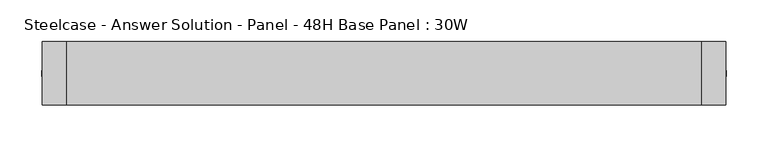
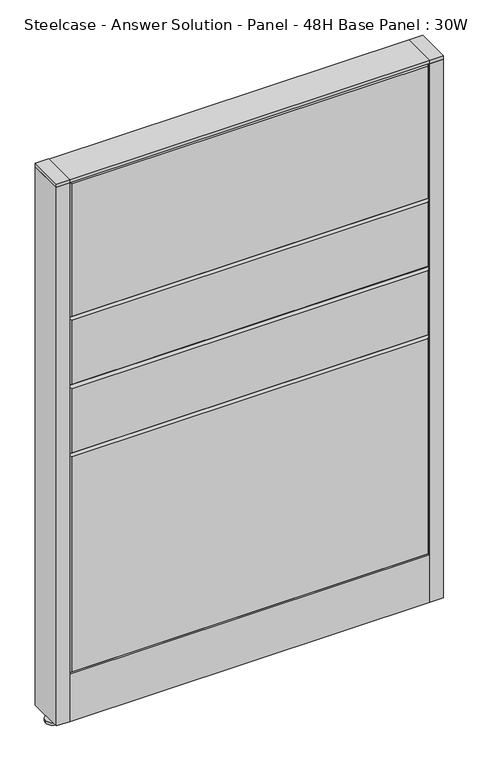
"""IFC4 building model written with IfcOpenShell, lengths in millimetres: furniture geometry, Steelcase - Answer Solution - Panel - 48H Base Panel : 30W."""

from ifc_helpers import new_model, si_unit, point, frame, frame_2d, origin, place, context, project, spatial, polyline, circle_curve, trimmed, segment, composite_curve, outline, extrude, faceted_brep, source, transform, mapped, element, save


def steelcase_answer_solution_panel_48h_base_panel_30w_d3ee1bee(model_context):
    return source(origin(), model_context, "Body", "SolidModel", [
        extrude(outline(composite_curve([segment(trimmed(circle_curve(frame_2d((395.224, 0.0320214)), 5.08), [point((400.304, 0.0320214))], [point((390.144, 0.0320214))], False, "CARTESIAN"), True, "CONTINUOUS"), segment(trimmed(circle_curve(frame_2d((395.224, 0.0320214)), 5.08), [point((390.144, 0.0320214))], [point((400.304, 0.0320214))], False, "CARTESIAN"), True, "CONTINUOUS")], self_intersect=False)), frame((0.0, 0.0, 5.0799671), z_axis=(0.0, 0.0, 1.0), x_axis=(1.0, 0.0, 0.0)), (0.0, 0.0, 1.0), 10.414),
        extrude(outline(composite_curve([segment(trimmed(circle_curve(frame_2d((395.224, 0.0320214)), 15.24), [point((410.464, 0.0320214))], [point((379.984, 0.0320214))], False, "CARTESIAN"), True, "CONTINUOUS"), segment(trimmed(circle_curve(frame_2d((395.224, 0.0320214)), 15.24), [point((379.984, 0.0320214))], [point((410.464, 0.0320214))], False, "CARTESIAN"), True, "CONTINUOUS")], self_intersect=False)), frame((0.0, 0.0, -3.29e-05), z_axis=(0.0, 0.0, 1.0), x_axis=(1.0, 0.0, 0.0)), (0.0, 0.0, 1.0), 5.08),
        extrude(outline(polyline([(409.575, 38.1320408), (409.575, -38.0679592), (381.0, -38.0679592), (381.0, 38.1320408), (409.575, 38.1320408)])), frame((0.0, 0.0, 1218.2348), z_axis=(0.0, 0.0, 1.0), x_axis=(1.0, 0.0, 0.0)), (0.0, 0.0, 1.0), 7.3151671),
        extrude(outline(polyline([(409.575, 38.1320408), (409.575, -38.0679592), (381.0, -38.0679592), (381.0, 38.1320408), (409.575, 38.1320408)])), frame((0.0, 0.0, 15.4939671), z_axis=(0.0, 0.0, 1.0), x_axis=(1.0, 0.0, 0.0)), (0.0, 0.0, 1.0), 1202.7408329),
        extrude(outline(composite_curve([segment(trimmed(circle_curve(frame_2d((-395.224, 0.0320214)), 5.08), [point((-400.304, 0.0320214))], [point((-390.144, 0.0320214))], False, "CARTESIAN"), True, "CONTINUOUS"), segment(trimmed(circle_curve(frame_2d((-395.224, 0.0320214)), 5.08), [point((-390.144, 0.0320214))], [point((-400.304, 0.0320214))], False, "CARTESIAN"), True, "CONTINUOUS")], self_intersect=False)), frame((0.0, 0.0, 5.0799671), z_axis=(0.0, 0.0, 1.0), x_axis=(1.0, 0.0, 0.0)), (0.0, 0.0, 1.0), 10.414),
        extrude(outline(composite_curve([segment(trimmed(circle_curve(frame_2d((-395.224, 0.0320214)), 15.24), [point((-410.464, 0.0320214))], [point((-379.984, 0.0320214))], False, "CARTESIAN"), True, "CONTINUOUS"), segment(trimmed(circle_curve(frame_2d((-395.224, 0.0320214)), 15.24), [point((-379.984, 0.0320214))], [point((-410.464, 0.0320214))], False, "CARTESIAN"), True, "CONTINUOUS")], self_intersect=False)), frame((0.0, 0.0, -3.29e-05), z_axis=(0.0, 0.0, 1.0), x_axis=(1.0, 0.0, 0.0)), (0.0, 0.0, 1.0), 5.08),
        extrude(outline(polyline([(-409.575, 38.1320408), (-381.0, 38.1320408), (-381.0, -38.0679592), (-409.575, -38.0679592), (-409.575, 38.1320408)])), frame((0.0, 0.0, 1218.2348), z_axis=(0.0, 0.0, 1.0), x_axis=(1.0, 0.0, 0.0)), (0.0, 0.0, 1.0), 7.3151671),
        extrude(outline(polyline([(-409.575, 38.1320408), (-381.0, 38.1320408), (-381.0, -38.0679592), (-409.575, -38.0679592), (-409.575, 38.1320408)])), frame((0.0, 0.0, 15.4939671), z_axis=(0.0, 0.0, 1.0), x_axis=(1.0, 0.0, 0.0)), (0.0, 0.0, 1.0), 1202.7408329),
        faceted_brep([(-376.174, 38.1635011, 1214.374), (376.174, 38.1635011, 1214.374), (376.174, 38.1635011, 919.226), (-376.174, 38.1635011, 919.226), (-381.0, 33.3375011, 1219.2), (-381.0, 33.3375011, 914.4), (381.0, 33.3375011, 914.4), (381.0, 33.3375011, 1219.2)], [[[0, 1, 2, 3]], [[4, 5, 6, 7]], [[4, 7, 1, 0]], [[7, 6, 2, 1]], [[6, 5, 3, 2]], [[5, 4, 0, 3]]]),
        faceted_brep([(-376.174, 38.1635011, 909.574), (376.174, 38.1635011, 909.574), (376.174, 38.1635011, 766.826), (-376.174, 38.1635011, 766.826), (-381.0, 33.3375011, 914.4), (-381.0, 33.3375011, 762.0), (381.0, 33.3375011, 762.0), (381.0, 33.3375011, 914.4)], [[[0, 1, 2, 3]], [[4, 5, 6, 7]], [[4, 7, 1, 0]], [[7, 6, 2, 1]], [[6, 5, 3, 2]], [[5, 4, 0, 3]]]),
        faceted_brep([(-376.174, 38.1635011, 757.174), (376.174, 38.1635011, 757.174), (376.174, 38.1635011, 614.426), (-376.174, 38.1635011, 614.426), (-381.0, 33.3375011, 762.0), (-381.0, 33.3375011, 609.6), (381.0, 33.3375011, 609.6), (381.0, 33.3375011, 762.0)], [[[0, 1, 2, 3]], [[4, 5, 6, 7]], [[4, 7, 1, 0]], [[7, 6, 2, 1]], [[6, 5, 3, 2]], [[5, 4, 0, 3]]]),
        faceted_brep([(-376.174, 38.1635011, 604.774), (376.174, 38.1635011, 604.774), (376.174, 38.1635011, 125.476), (-376.174, 38.1635011, 125.476), (-381.0, 33.3375011, 609.6), (-381.0, 33.3375011, 120.65), (381.0, 33.3375011, 120.65), (381.0, 33.3375011, 609.6)], [[[0, 1, 2, 3]], [[4, 5, 6, 7]], [[4, 7, 1, 0]], [[7, 6, 2, 1]], [[6, 5, 3, 2]], [[5, 4, 0, 3]]]),
        faceted_brep([(376.174, -38.1635011, 1214.374), (-376.174, -38.1635011, 1214.374), (-376.174, -38.1635011, 919.226), (376.174, -38.1635011, 919.226), (381.0, -33.3375011, 1219.2), (381.0, -33.3375011, 914.4), (-381.0, -33.3375011, 914.4), (-381.0, -33.3375011, 1219.2)], [[[0, 1, 2, 3]], [[4, 5, 6, 7]], [[4, 7, 1, 0]], [[7, 6, 2, 1]], [[6, 5, 3, 2]], [[5, 4, 0, 3]]]),
        faceted_brep([(376.174, -38.1635011, 909.574), (-376.174, -38.1635011, 909.574), (-376.174, -38.1635011, 766.826), (376.174, -38.1635011, 766.826), (381.0, -33.3375011, 914.4), (381.0, -33.3375011, 762.0), (-381.0, -33.3375011, 762.0), (-381.0, -33.3375011, 914.4)], [[[0, 1, 2, 3]], [[4, 5, 6, 7]], [[4, 7, 1, 0]], [[7, 6, 2, 1]], [[6, 5, 3, 2]], [[5, 4, 0, 3]]]),
        faceted_brep([(376.174, -38.1635011, 757.174), (-376.174, -38.1635011, 757.174), (-376.174, -38.1635011, 614.426), (376.174, -38.1635011, 614.426), (381.0, -33.3375011, 762.0), (381.0, -33.3375011, 609.6), (-381.0, -33.3375011, 609.6), (-381.0, -33.3375011, 762.0)], [[[0, 1, 2, 3]], [[4, 5, 6, 7]], [[4, 7, 1, 0]], [[7, 6, 2, 1]], [[6, 5, 3, 2]], [[5, 4, 0, 3]]]),
        faceted_brep([(376.174, -38.1635011, 604.774), (-376.174, -38.1635011, 604.774), (-376.174, -38.1635011, 125.476), (376.174, -38.1635011, 125.476), (381.0, -33.3375011, 609.6), (381.0, -33.3375011, 120.65), (-381.0, -33.3375011, 120.65), (-381.0, -33.3375011, 609.6)], [[[0, 1, 2, 3]], [[4, 5, 6, 7]], [[4, 7, 1, 0]], [[7, 6, 2, 1]], [[6, 5, 3, 2]], [[5, 4, 0, 3]]]),
        extrude(outline(polyline([(381.0, 38.1000194), (381.0, -38.1000194), (-381.0, -38.1000194), (-381.0, 38.1000194), (381.0, 38.1000194)])), frame((0.0, 0.0, 1219.2), z_axis=(0.0, 0.0, 1.0), x_axis=(1.0, 0.0, 0.0)), (0.0, 0.0, 1.0), 6.35),
        extrude(outline(polyline([(25.4000011, 119.8575157), (25.4000011, 120.65), (38.1000194, 120.65), (38.1000194, 15.494), (37.3075215, 15.494), (37.3075215, 119.8575157), (25.4000011, 119.8575157)])), frame((-381.0, 0.0, 0.0), z_axis=(1.0, 0.0, 0.0), x_axis=(0.0, 1.0, 0.0)), (0.0, 0.0, 1.0), 762.0),
        extrude(outline(polyline([(-25.4000011, 119.8575157), (-37.3075215, 119.8575157), (-37.3075215, 15.494), (-38.1000194, 15.494), (-38.1000194, 120.65), (-25.4000011, 120.65), (-25.4000011, 119.8575157)])), frame((-381.0, 0.0, 0.0), z_axis=(1.0, 0.0, 0.0), x_axis=(0.0, 1.0, 0.0)), (0.0, 0.0, 1.0), 762.0),
    ])


if __name__ == "__main__":
    model = new_model("IFC4")
    model_context = context("Model", 3, world=origin())
    ifc_project = project(units=[si_unit("LENGTHUNIT", "METRE", prefix="MILLI")], contexts=[model_context])
    site = spatial("IfcSite", under=ifc_project)
    building = spatial("IfcBuilding", under=site)
    placement = place(None, origin())
    steelcase_answer_solution_panel_48h_base_panel_30w_shape = steelcase_answer_solution_panel_48h_base_panel_30w_d3ee1bee(model_context)
    element("IfcFurniture", 1, ObjectType="Steelcase - Answer Solution - Panel - 48H Base Panel : 30W", at=placement, inside=building, context=model_context, shape_type="MappedRepresentation", body=[
        mapped(steelcase_answer_solution_panel_48h_base_panel_30w_shape, transform((0.0, 0.0, 0.0), x_axis=(1.0, 0.0, 0.0), y_axis=(0.0, 1.0, 0.0), z_axis=(0.0, 0.0, 1.0))),
    ])
    save(model, "model.ifc")
